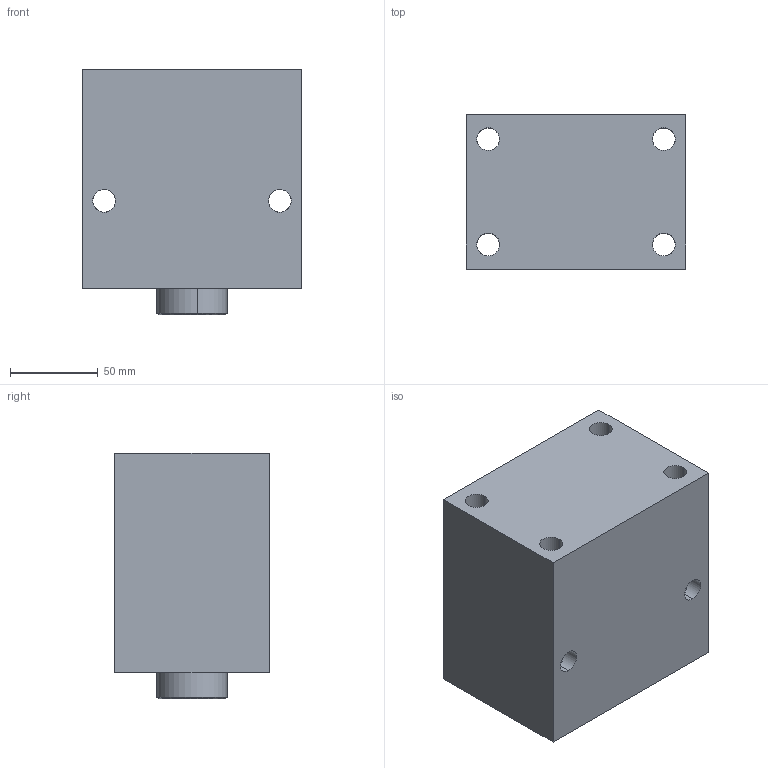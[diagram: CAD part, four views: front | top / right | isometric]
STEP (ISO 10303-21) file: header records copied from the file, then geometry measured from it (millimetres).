
FILE_DESCRIPTION (( 'STEP AP203' ), '1' );
FILE_NAME ('Block cylinder B01C-650F.STEP', '2022-07-09T18:34:14', ( '' ), ( '' ), 'SwSTEP 2.0', 'SolidWorks 2017', '' );
FILE_SCHEMA (( 'CONFIG_CONTROL_DESIGN' ));
Length unit declared in the file: millimetre
Products named in the file (3): Body_ 650F_50ST; Piston _ 650F; Block cylinder B01C-650F
Assembly tree (2 placements, depth 2):
  Block cylinder B01C-650F
    Body_ 650F_50ST
    Piston _ 650F
Bounding box: 125 x 88 x 140 mm (x, y, z)
Volume: 1404437.7 mm3; surface area: 126004.5 mm2
Topology: 2 solids, 2 shells, 344 faces, 937 edges, 611 vertices
Faces by surface type: bspline 160, plane 132, cylinder 44, cone 8
Entity records: 17618 total; most frequent: CARTESIAN_POINT 9779, ORIENTED_EDGE 1862, DIRECTION 1015, EDGE_CURVE 931, VERTEX_POINT 611, VECTOR 521, LINE 521, EDGE_LOOP 384
